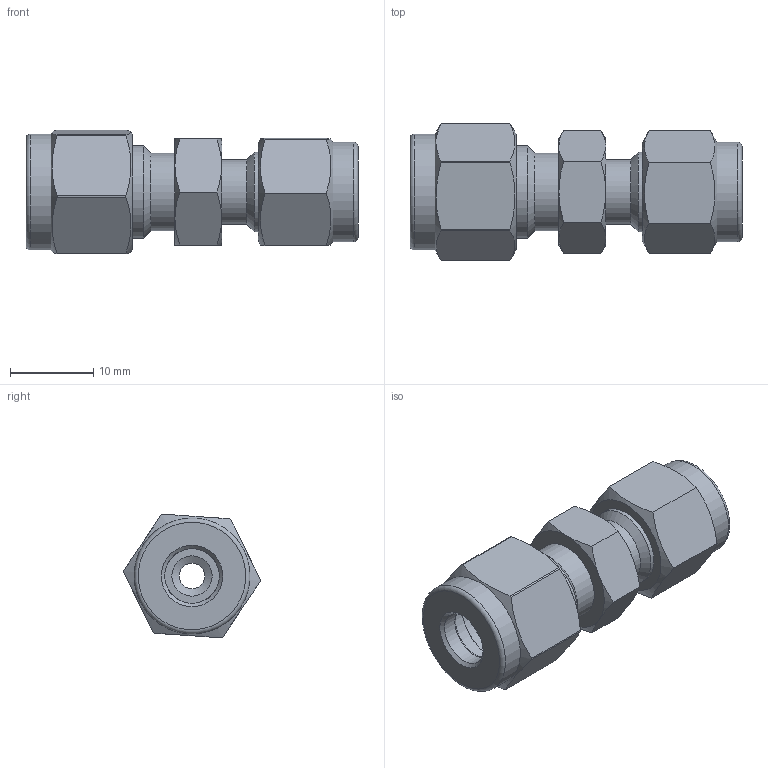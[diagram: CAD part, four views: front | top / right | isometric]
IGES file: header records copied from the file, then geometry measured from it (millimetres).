
Global section: file name: No Iges File Name specified; native system: Autodesk Inventor 2012; preprocessor: AutoDesk Inventor Iges Exporter R2012; author: 硅己绕,,1; organization: 1; date: 20150420.101259; units: millimetre
Bounding box: 39.77 x 16.37 x 14.82 mm (x, y, z)
Volume: 3751.4 mm3; surface area: 3693.6 mm2
Topology: 3 solids, 3 shells, 89 faces, 188 edges, 112 vertices
Faces by surface type: plane 31, cone 20, revolution 20, cylinder 14, torus 4
Full cylindrical faces by diameter (mm): 7.75 x2, 9.3 x1, 9.4 x1, 9.53 x1, 11.112 x1, 11.9 x1, 13.9 x1
